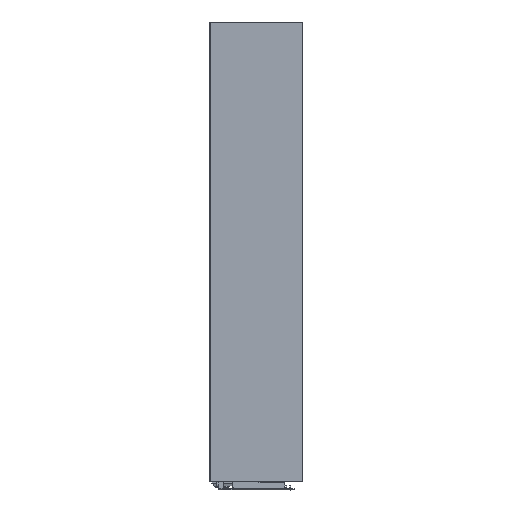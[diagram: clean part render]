
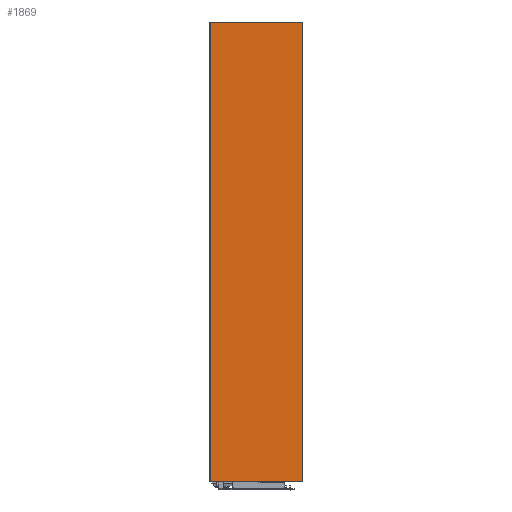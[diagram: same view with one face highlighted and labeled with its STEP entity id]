
A CAD part, left-side view. The second image highlights one B-rep face of the part: STEP entity #1869.
In plain terms, the highlighted planar face has unit normal (-1, 0, 0).
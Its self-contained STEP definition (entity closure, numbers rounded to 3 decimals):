
#19 = CARTESIAN_POINT ( 'NONE',  ( 2.5, 59.5, 0. ) ) ;
#66 = CARTESIAN_POINT ( 'NONE',  ( 2.5, -29., 0. ) ) ;
#187 = AXIS2_PLACEMENT_3D ( 'NONE', #66, #765, #2081 ) ;
#314 = VECTOR ( 'NONE', #819, 1000. ) ;
#317 = LINE ( 'NONE', #914, #314 ) ;
#318 = CARTESIAN_POINT ( 'NONE',  ( 2.5, 59.5, -440. ) ) ;
#401 = VERTEX_POINT ( 'NONE', #318 ) ;
#765 = DIRECTION ( 'NONE',  ( 1., 0., 0. ) ) ;
#806 = LINE ( 'NONE', #2295, #1469 ) ;
#819 = DIRECTION ( 'NONE',  ( 0., 0., -1. ) ) ;
#825 = PLANE ( 'NONE',  #187 ) ;
#837 = EDGE_CURVE ( 'NONE', #1710, #1861, #317, .T. ) ;
#914 = CARTESIAN_POINT ( 'NONE',  ( 2.5, -29., 0. ) ) ;
#952 = CARTESIAN_POINT ( 'NONE',  ( 2.5, -29., -440. ) ) ;
#1168 = ORIENTED_EDGE ( 'NONE', *, *, #1769, .T. ) ;
#1187 = DIRECTION ( 'NONE',  ( 0., 1., 0. ) ) ;
#1322 = FACE_OUTER_BOUND ( 'NONE', #1439, .T. ) ;
#1339 = LINE ( 'NONE', #2421, #1862 ) ;
#1439 = EDGE_LOOP ( 'NONE', ( #1892, #3054, #1168, #1484 ) ) ;
#1469 = VECTOR ( 'NONE', #1187, 1000. ) ;
#1484 = ORIENTED_EDGE ( 'NONE', *, *, #3154, .T. ) ;
#1523 = DIRECTION ( 'NONE',  ( 0., 0., -1. ) ) ;
#1632 = VECTOR ( 'NONE', #1523, 1000. ) ;
#1710 = VERTEX_POINT ( 'NONE', #2506 ) ;
#1769 = EDGE_CURVE ( 'NONE', #3060, #401, #2061, .T. ) ;
#1799 = EDGE_CURVE ( 'NONE', #1710, #3060, #806, .T. ) ;
#1861 = VERTEX_POINT ( 'NONE', #952 ) ;
#1862 = VECTOR ( 'NONE', #1934, 1000. ) ;
#1869 = ADVANCED_FACE ( 'NONE', ( #1322 ), #825, .F. ) ;
#1892 = ORIENTED_EDGE ( 'NONE', *, *, #837, .F. ) ;
#1934 = DIRECTION ( 'NONE',  ( 0., -1., 0. ) ) ;
#2061 = LINE ( 'NONE', #2964, #1632 ) ;
#2081 = DIRECTION ( 'NONE',  ( 0., -1., 0. ) ) ;
#2295 = CARTESIAN_POINT ( 'NONE',  ( 2.5, -29., 0. ) ) ;
#2421 = CARTESIAN_POINT ( 'NONE',  ( 2.5, 59.9, -440. ) ) ;
#2506 = CARTESIAN_POINT ( 'NONE',  ( 2.5, -29., 0. ) ) ;
#2964 = CARTESIAN_POINT ( 'NONE',  ( 2.5, 59.5, 0. ) ) ;
#3054 = ORIENTED_EDGE ( 'NONE', *, *, #1799, .T. ) ;
#3060 = VERTEX_POINT ( 'NONE', #19 ) ;
#3154 = EDGE_CURVE ( 'NONE', #401, #1861, #1339, .T. ) ;
